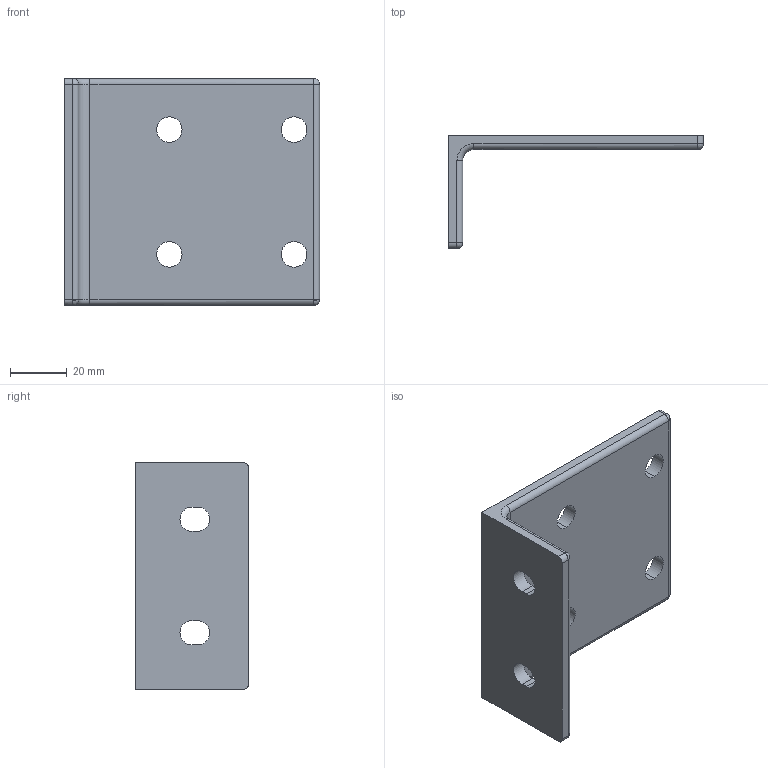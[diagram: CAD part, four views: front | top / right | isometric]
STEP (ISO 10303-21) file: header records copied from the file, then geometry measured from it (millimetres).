
FILE_DESCRIPTION (( 'STEP AP214' ), '1' );
FILE_NAME ('FABER - FBFA 84.STEP', '2017-04-05T12:15:06', ( '' ), ( '' ), 'SwSTEP 2.0', 'SolidWorks 2016', '' );
FILE_SCHEMA (( 'AUTOMOTIVE_DESIGN' ));
Length unit declared in the file: millimetre
Products named in the file (1): FABER - FBFA 84
Bounding box: 90 x 40 x 80 mm (x, y, z)
Volume: 47911.5 mm3; surface area: 21625.7 mm2
Topology: 1 solids, 1 shells, 43 faces, 113 edges, 70 vertices
Faces by surface type: cylinder 23, plane 12, sphere 6, torus 2
Entity records: 1345 total; most frequent: DIRECTION 249, CARTESIAN_POINT 217, ORIENTED_EDGE 214, EDGE_CURVE 107, AXIS2_PLACEMENT_3D 98, VERTEX_POINT 66, EDGE_LOOP 55, CIRCLE 54
